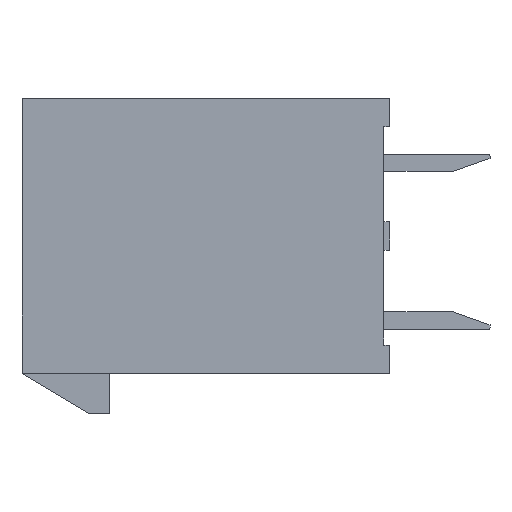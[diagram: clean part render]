
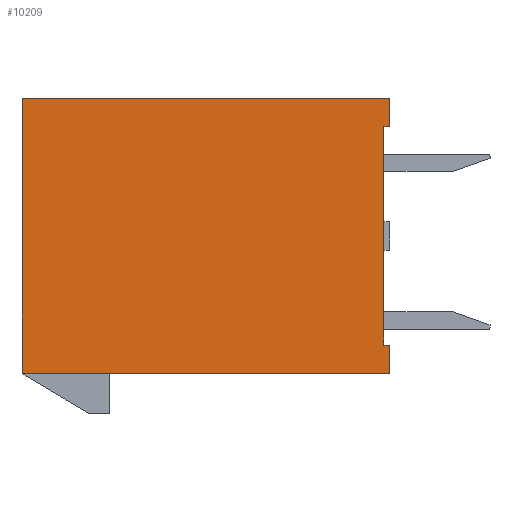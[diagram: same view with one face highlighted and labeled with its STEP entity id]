
A CAD part, left-side view. The second image highlights one B-rep face of the part: STEP entity #10209.
In plain terms, the highlighted planar face has unit normal (-1, 0, 0).
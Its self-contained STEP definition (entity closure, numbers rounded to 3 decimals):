
#181 = AXIS2_PLACEMENT_3D ( 'NONE', #1733, #1734, #1735 ) ;
#777 = CARTESIAN_POINT ( 'NONE',  ( -6.9, 0., -4.8 ) ) ;
#875 = CARTESIAN_POINT ( 'NONE',  ( -6.9, 12.8, -3.39 ) ) ;
#885 = CARTESIAN_POINT ( 'NONE',  ( -6.9, 0., 3.8 ) ) ;
#907 = CARTESIAN_POINT ( 'NONE',  ( -6.9, 12.8, -4.8 ) ) ;
#916 = CARTESIAN_POINT ( 'NONE',  ( -6.9, 0.2, 3.8 ) ) ;
#935 = CARTESIAN_POINT ( 'NONE',  ( -6.9, 0.2, -3.8 ) ) ;
#938 = CARTESIAN_POINT ( 'NONE',  ( -6.9, 0., -3.8 ) ) ;
#939 = CARTESIAN_POINT ( 'NONE',  ( -6.9, 12.8, 4.8 ) ) ;
#965 = CARTESIAN_POINT ( 'NONE',  ( -6.9, 0., 4.8 ) ) ;
#980 = CARTESIAN_POINT ( 'NONE',  ( -6.9, 12.8, -1.59 ) ) ;
#1706 = PLANE ( 'NONE',  #181 ) ;
#1718 = FACE_OUTER_BOUND ( 'NONE', #2313, .T. ) ;
#1733 = CARTESIAN_POINT ( 'NONE',  ( -6.9, 0., -30.426 ) ) ;
#1734 = DIRECTION ( 'NONE',  ( 1., 0., 0. ) ) ;
#1735 = DIRECTION ( 'NONE',  ( 0., 0., -1. ) ) ;
#2313 = EDGE_LOOP ( 'NONE', ( #12395, #12137, #11525, #11359, #11594, #11550, #11397, #11552, #11447, #11403 ) ) ;
#2943 = EDGE_CURVE ( 'NONE', #11580, #11410, #8029, .T. ) ;
#2947 = EDGE_CURVE ( 'NONE', #12350, #11462, #8189, .T. ) ;
#2949 = EDGE_CURVE ( 'NONE', #11446, #11412, #8063, .T. ) ;
#2957 = EDGE_CURVE ( 'NONE', #11445, #11462, #8422, .T. ) ;
#2962 = EDGE_CURVE ( 'NONE', #11580, #11445, #8185, .T. ) ;
#2970 = EDGE_CURVE ( 'NONE', #12350, #11411, #5123, .T. ) ;
#2976 = EDGE_CURVE ( 'NONE', #12401, #11459, #5882, .T. ) ;
#2987 = EDGE_CURVE ( 'NONE', #11410, #11412, #5646, .T. ) ;
#2994 = EDGE_CURVE ( 'NONE', #11446, #11459, #5629, .T. ) ;
#2999 = EDGE_CURVE ( 'NONE', #12401, #11411, #5872, .T. ) ;
#5123 = LINE ( 'NONE', #5200, #11047 ) ;
#5125 = CARTESIAN_POINT ( 'NONE',  ( -6.9, 0.4, 3.8 ) ) ;
#5200 = CARTESIAN_POINT ( 'NONE',  ( -6.9, 12.8, 0. ) ) ;
#5331 = DIRECTION ( 'NONE',  ( 0., -1., 0. ) ) ;
#5337 = DIRECTION ( 'NONE',  ( 0., 1., 0. ) ) ;
#5407 = DIRECTION ( 'NONE',  ( 0., 0., 1. ) ) ;
#5459 = CARTESIAN_POINT ( 'NONE',  ( -6.9, 3.7, 4.8 ) ) ;
#5538 = CARTESIAN_POINT ( 'NONE',  ( -6.9, 0.4, -3.8 ) ) ;
#5613 = DIRECTION ( 'NONE',  ( 0., 1., 0. ) ) ;
#5629 = LINE ( 'NONE', #5125, #11020 ) ;
#5646 = LINE ( 'NONE', #5538, #11036 ) ;
#5652 = CARTESIAN_POINT ( 'NONE',  ( -6.9, 0., 1.605 ) ) ;
#5791 = DIRECTION ( 'NONE',  ( 0., 0., -1. ) ) ;
#5872 = LINE ( 'NONE', #5459, #10727 ) ;
#5882 = LINE ( 'NONE', #5652, #11077 ) ;
#5892 = DIRECTION ( 'NONE',  ( 0., 1., 0. ) ) ;
#7962 = CARTESIAN_POINT ( 'NONE',  ( -6.9, 12.8, -3.39 ) ) ;
#8029 = LINE ( 'NONE', #8501, #11219 ) ;
#8063 = LINE ( 'NONE', #8226, #11120 ) ;
#8175 = CARTESIAN_POINT ( 'NONE',  ( -6.9, 12.8, -30.426 ) ) ;
#8185 = LINE ( 'NONE', #8358, #11115 ) ;
#8189 = LINE ( 'NONE', #7962, #11094 ) ;
#8226 = CARTESIAN_POINT ( 'NONE',  ( -6.9, 0.2, 1.605 ) ) ;
#8302 = DIRECTION ( 'NONE',  ( 0., 0., 1. ) ) ;
#8348 = DIRECTION ( 'NONE',  ( 0., 0., -1. ) ) ;
#8358 = CARTESIAN_POINT ( 'NONE',  ( -6.9, 0., -4.8 ) ) ;
#8422 = LINE ( 'NONE', #8175, #11157 ) ;
#8482 = DIRECTION ( 'NONE',  ( 0., 0., 1. ) ) ;
#8501 = CARTESIAN_POINT ( 'NONE',  ( -6.9, 0., -30.426 ) ) ;
#8523 = DIRECTION ( 'NONE',  ( 0., 0., -1. ) ) ;
#10209 = ADVANCED_FACE ( 'NONE', ( #1718 ), #1706, .F. ) ;
#10727 = VECTOR ( 'NONE', #5613, 1000. ) ;
#11020 = VECTOR ( 'NONE', #5331, 1000. ) ;
#11036 = VECTOR ( 'NONE', #5892, 1000. ) ;
#11047 = VECTOR ( 'NONE', #5407, 1000. ) ;
#11077 = VECTOR ( 'NONE', #5791, 1000. ) ;
#11094 = VECTOR ( 'NONE', #8523, 1000. ) ;
#11115 = VECTOR ( 'NONE', #5337, 1000. ) ;
#11120 = VECTOR ( 'NONE', #8348, 1000. ) ;
#11157 = VECTOR ( 'NONE', #8482, 1000. ) ;
#11219 = VECTOR ( 'NONE', #8302, 1000. ) ;
#11359 = ORIENTED_EDGE ( 'NONE', *, *, #2949, .F. ) ;
#11397 = ORIENTED_EDGE ( 'NONE', *, *, #2999, .T. ) ;
#11403 = ORIENTED_EDGE ( 'NONE', *, *, #2957, .F. ) ;
#11410 = VERTEX_POINT ( 'NONE', #938 ) ;
#11411 = VERTEX_POINT ( 'NONE', #939 ) ;
#11412 = VERTEX_POINT ( 'NONE', #935 ) ;
#11445 = VERTEX_POINT ( 'NONE', #907 ) ;
#11446 = VERTEX_POINT ( 'NONE', #916 ) ;
#11447 = ORIENTED_EDGE ( 'NONE', *, *, #2947, .T. ) ;
#11459 = VERTEX_POINT ( 'NONE', #885 ) ;
#11462 = VERTEX_POINT ( 'NONE', #875 ) ;
#11525 = ORIENTED_EDGE ( 'NONE', *, *, #2987, .T. ) ;
#11550 = ORIENTED_EDGE ( 'NONE', *, *, #2976, .F. ) ;
#11552 = ORIENTED_EDGE ( 'NONE', *, *, #2970, .F. ) ;
#11580 = VERTEX_POINT ( 'NONE', #777 ) ;
#11594 = ORIENTED_EDGE ( 'NONE', *, *, #2994, .T. ) ;
#12137 = ORIENTED_EDGE ( 'NONE', *, *, #2943, .T. ) ;
#12350 = VERTEX_POINT ( 'NONE', #980 ) ;
#12395 = ORIENTED_EDGE ( 'NONE', *, *, #2962, .F. ) ;
#12401 = VERTEX_POINT ( 'NONE', #965 ) ;
